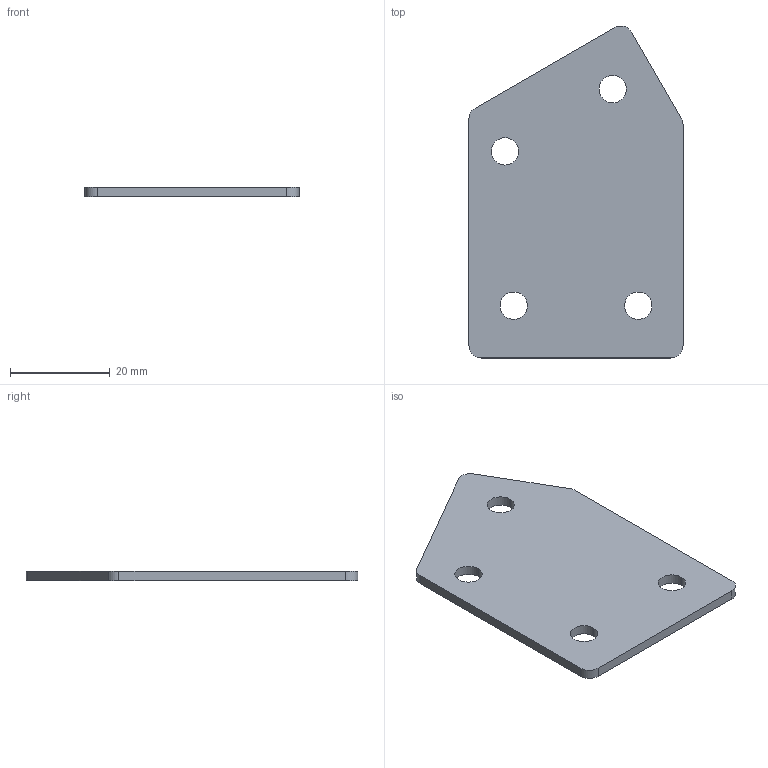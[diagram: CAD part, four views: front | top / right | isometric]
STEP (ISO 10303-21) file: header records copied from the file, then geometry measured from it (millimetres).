
FILE_DESCRIPTION (( 'STEP AP214' ), '1' );
FILE_NAME ('Ï-4-óãîë30-25.STEP', '2021-11-05T13:39:37', ( 'Home' ), ( '' ), 'SwSTEP 2.0', 'SolidWorks 2020', '' );
FILE_SCHEMA (( 'AUTOMOTIVE_DESIGN' ));
Length unit declared in the file: millimetre
Products named in the file (1): Ï-4-óãîë30-25
Bounding box: 43 x 66.67 x 2 mm (x, y, z)
Volume: 4810.8 mm3; surface area: 5340.8 mm2
Topology: 1 solids, 1 shells, 20 faces, 54 edges, 36 vertices
Faces by surface type: cylinder 13, plane 7
Entity records: 694 total; most frequent: DIRECTION 122, CARTESIAN_POINT 111, ORIENTED_EDGE 108, EDGE_CURVE 54, AXIS2_PLACEMENT_3D 47, VERTEX_POINT 36, LINE 28, VECTOR 28
